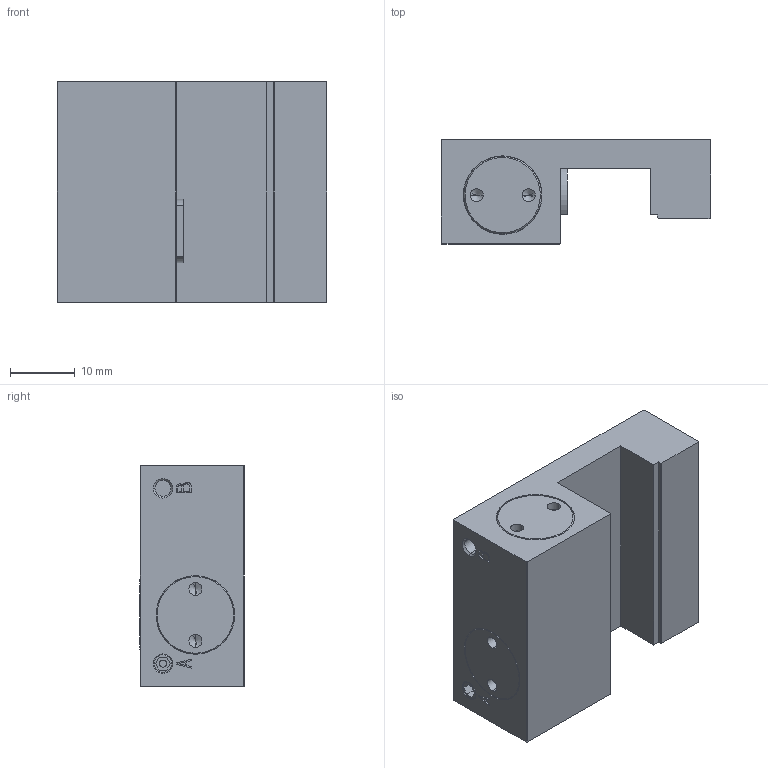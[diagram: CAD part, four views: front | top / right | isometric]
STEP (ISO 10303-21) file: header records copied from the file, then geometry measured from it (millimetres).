
FILE_DESCRIPTION( ( '' ), '1' );
FILE_NAME( 'E:/04 嬴檜蠱滌/0404 ZIMMER/040414 ZIMMER CAD download/MCP/MCP1501H---.stp', '2020-04-16T10:02:27', ( '' ), ( '' ), ' ', ' ', ' ' );
FILE_SCHEMA( ( 'automotive_design' ) );
Length unit declared in the file: millimetre
Products named in the file (1): 1
Bounding box: 41.5 x 16.05 x 34 mm (x, y, z)
Volume: 15795.4 mm3; surface area: 5798.9 mm2
Topology: 1 solids, 1 shells, 118 faces, 280 edges, 176 vertices
Faces by surface type: plane 64, cylinder 32, cone 22
Entity records: 6536 total; most frequent: DIRECTION 590, STYLED_ITEM 567, PRESENTATION_STYLE_ASSIGNMENT 567, CARTESIAN_POINT 567, COLOUR_RGB 567, ORIENTED_EDGE 544, EDGE_CURVE 272, CURVE_STYLE 272
